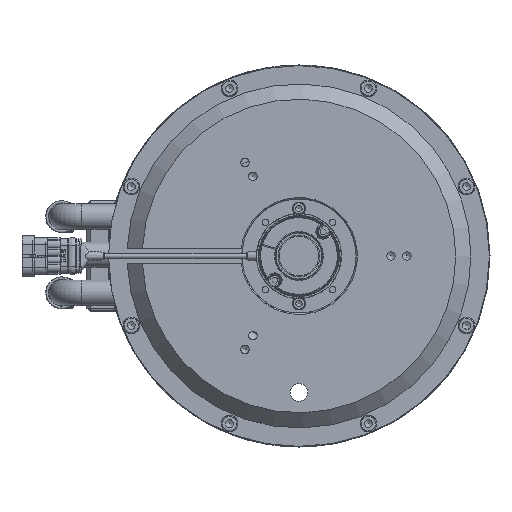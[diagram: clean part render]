
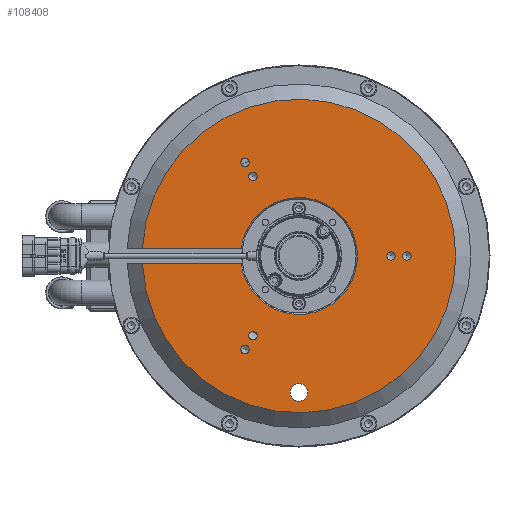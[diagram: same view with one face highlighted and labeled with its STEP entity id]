
A CAD part, left-side view. The second image highlights one B-rep face of the part: STEP entity #108408.
In plain terms, the highlighted planar face has unit normal (-1, 0, 0).
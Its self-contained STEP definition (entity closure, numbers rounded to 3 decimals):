
#1412=FACE_BOUND('',#16159,.T.);
#1413=FACE_BOUND('',#16160,.T.);
#1414=FACE_BOUND('',#16161,.T.);
#1415=FACE_BOUND('',#16162,.T.);
#1416=FACE_BOUND('',#16163,.T.);
#1417=FACE_BOUND('',#16164,.T.);
#1418=FACE_BOUND('',#16165,.T.);
#5354=CIRCLE('',#117630,6.918);
#5357=CIRCLE('',#117635,3.324);
#5359=CIRCLE('',#117639,3.324);
#5361=CIRCLE('',#117643,3.324);
#5363=CIRCLE('',#117647,3.324);
#5366=CIRCLE('',#117651,46.);
#5367=CIRCLE('',#117654,123.5);
#5368=CIRCLE('',#117655,3.324);
#5369=CIRCLE('',#117656,3.324);
#9715=FACE_OUTER_BOUND('',#16158,.T.);
#16158=EDGE_LOOP('',(#80209,#80210,#80211,#80212));
#16159=EDGE_LOOP('',(#80213));
#16160=EDGE_LOOP('',(#80214));
#16161=EDGE_LOOP('',(#80215));
#16162=EDGE_LOOP('',(#80216));
#16163=EDGE_LOOP('',(#80217));
#16164=EDGE_LOOP('',(#80218));
#16165=EDGE_LOOP('',(#80219));
#24816=LINE('',#179196,#34812);
#24819=LINE('',#179206,#34815);
#34812=VECTOR('',#138798,10.);
#34815=VECTOR('',#138803,10.);
#46264=VERTEX_POINT('',#179138);
#46268=VERTEX_POINT('',#179149);
#46271=VERTEX_POINT('',#179158);
#46274=VERTEX_POINT('',#179167);
#46277=VERTEX_POINT('',#179176);
#46278=VERTEX_POINT('',#179180);
#46282=VERTEX_POINT('',#179189);
#46283=VERTEX_POINT('',#179195);
#46286=VERTEX_POINT('',#179205);
#46287=VERTEX_POINT('',#179208);
#46288=VERTEX_POINT('',#179210);
#58518=EDGE_CURVE('',#46264,#46264,#5354,.T.);
#58523=EDGE_CURVE('',#46268,#46268,#5357,.T.);
#58527=EDGE_CURVE('',#46271,#46271,#5359,.T.);
#58531=EDGE_CURVE('',#46274,#46274,#5361,.T.);
#58535=EDGE_CURVE('',#46277,#46277,#5363,.T.);
#58541=EDGE_CURVE('',#46282,#46278,#5366,.T.);
#58542=EDGE_CURVE('',#46283,#46278,#24816,.T.);
#58546=EDGE_CURVE('',#46282,#46286,#24819,.T.);
#58547=EDGE_CURVE('',#46283,#46286,#5367,.T.);
#58548=EDGE_CURVE('',#46287,#46287,#5368,.T.);
#58549=EDGE_CURVE('',#46288,#46288,#5369,.T.);
#80209=ORIENTED_EDGE('',*,*,#58541,.F.);
#80210=ORIENTED_EDGE('',*,*,#58546,.T.);
#80211=ORIENTED_EDGE('',*,*,#58547,.F.);
#80212=ORIENTED_EDGE('',*,*,#58542,.T.);
#80213=ORIENTED_EDGE('',*,*,#58518,.T.);
#80214=ORIENTED_EDGE('',*,*,#58523,.T.);
#80215=ORIENTED_EDGE('',*,*,#58527,.T.);
#80216=ORIENTED_EDGE('',*,*,#58531,.T.);
#80217=ORIENTED_EDGE('',*,*,#58535,.T.);
#80218=ORIENTED_EDGE('',*,*,#58548,.T.);
#80219=ORIENTED_EDGE('',*,*,#58549,.T.);
#96867=PLANE('',#117653);
#108408=ADVANCED_FACE('',(#9715,#1412,#1413,#1414,#1415,#1416,#1417,#1418),
#96867,.T.);
#117630=AXIS2_PLACEMENT_3D('',#179139,#138743,#138744);
#117635=AXIS2_PLACEMENT_3D('',#179150,#138755,#138756);
#117639=AXIS2_PLACEMENT_3D('',#179159,#138765,#138766);
#117643=AXIS2_PLACEMENT_3D('',#179168,#138775,#138776);
#117647=AXIS2_PLACEMENT_3D('',#179177,#138785,#138786);
#117651=AXIS2_PLACEMENT_3D('',#179193,#138794,#138795);
#117653=AXIS2_PLACEMENT_3D('',#179204,#138801,#138802);
#117654=AXIS2_PLACEMENT_3D('',#179207,#138804,#138805);
#117655=AXIS2_PLACEMENT_3D('',#179209,#138806,#138807);
#117656=AXIS2_PLACEMENT_3D('',#179211,#138808,#138809);
#138743=DIRECTION('center_axis',(1.,0.,0.));
#138744=DIRECTION('ref_axis',(0.,0.,
1.));
#138755=DIRECTION('center_axis',(1.,0.,0.));
#138756=DIRECTION('ref_axis',(0.,-0.866,-0.5));
#138765=DIRECTION('center_axis',(1.,0.,0.));
#138766=DIRECTION('ref_axis',(0.,-0.866,-0.5));
#138775=DIRECTION('center_axis',(1.,0.,0.));
#138776=DIRECTION('ref_axis',(0.,0.866,-0.5));
#138785=DIRECTION('center_axis',(1.,0.,0.));
#138786=DIRECTION('ref_axis',(0.,0.866,-0.5));
#138794=DIRECTION('center_axis',(-1.,0.,0.));
#138795=DIRECTION('ref_axis',(0.,-1.,0.));
#138798=DIRECTION('',(0.,-1.,0.));
#138801=DIRECTION('center_axis',(-1.,0.,0.));
#138802=DIRECTION('ref_axis',(0.,0.,
1.));
#138803=DIRECTION('',(0.,1.,0.));
#138804=DIRECTION('center_axis',(1.,0.,0.));
#138805=DIRECTION('ref_axis',(0.,-1.,0.));
#138806=DIRECTION('center_axis',(1.,0.,0.));
#138807=DIRECTION('ref_axis',(0.,0.,
1.));
#138808=DIRECTION('center_axis',(1.,0.,0.));
#138809=DIRECTION('ref_axis',(0.,0.,
1.));
#179138=CARTESIAN_POINT('',(-375.,0.,-114.418));
#179139=CARTESIAN_POINT('Origin',(-375.,0.,
-107.5));
#179149=CARTESIAN_POINT('',(-375.,39.128,-61.125));
#179150=CARTESIAN_POINT('Origin',(-375.,36.25,-62.787));
#179158=CARTESIAN_POINT('',(-375.,45.378,-71.95));
#179159=CARTESIAN_POINT('Origin',(-375.,42.5,-73.612));
#179167=CARTESIAN_POINT('',(-375.,33.372,64.449));
#179168=CARTESIAN_POINT('Origin',(-375.,36.25,62.787));
#179176=CARTESIAN_POINT('',(-375.,39.622,75.274));
#179177=CARTESIAN_POINT('Origin',(-375.,42.5,73.612));
#179180=CARTESIAN_POINT('',(-375.,45.607,6.));
#179189=CARTESIAN_POINT('',(-375.,45.607,-6.));
#179193=CARTESIAN_POINT('Origin',(-375.,0.,
0.));
#179195=CARTESIAN_POINT('',(-375.,123.354,6.));
#179196=CARTESIAN_POINT('',(-375.,53.965,6.));
#179204=CARTESIAN_POINT('Origin',(-375.,90.25,0.));
#179205=CARTESIAN_POINT('',(-375.,123.354,-6.));
#179206=CARTESIAN_POINT('',(-375.,141.816,-6.));
#179207=CARTESIAN_POINT('Origin',(-375.,0.,
0.));
#179208=CARTESIAN_POINT('',(-375.,-85.,-3.323));
#179209=CARTESIAN_POINT('Origin',(-375.,-85.,0.));
#179210=CARTESIAN_POINT('',(-375.,-72.5,-3.323));
#179211=CARTESIAN_POINT('Origin',(-375.,-72.5,0.));
